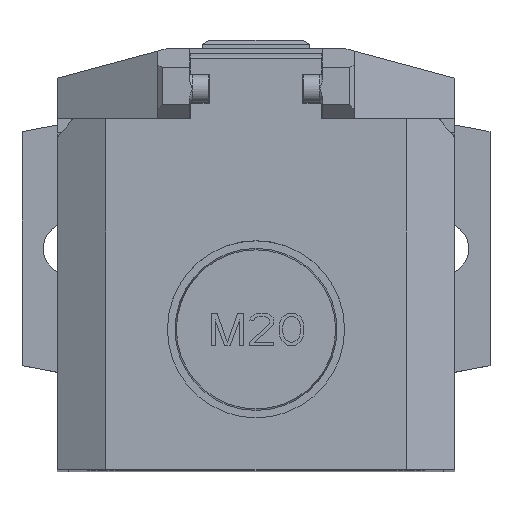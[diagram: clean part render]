
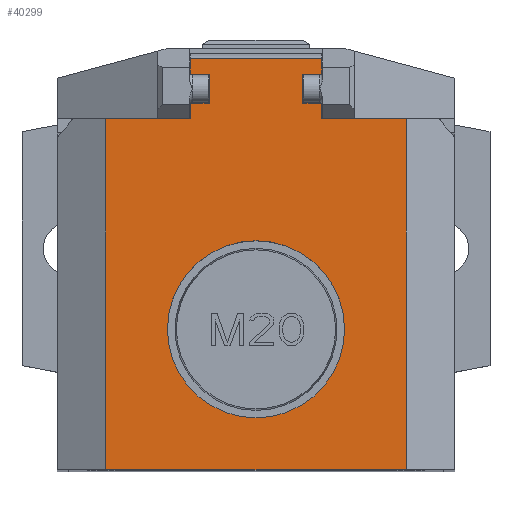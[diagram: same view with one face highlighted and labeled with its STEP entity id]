
A CAD part, top view. The second image highlights one B-rep face of the part: STEP entity #40299.
In plain terms, the highlighted planar face has unit normal (0, 0, 1) as drawn and (0, 0, -1) by its records, which use the part's own axes.
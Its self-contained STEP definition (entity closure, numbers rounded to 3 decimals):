
#1404=DIRECTION('',(-1.,0.,0.));
#1405=VECTOR('',#1404,9.054);
#1406=CARTESIAN_POINT('',(16.054,-16.5,-136.5));
#1407=LINE('',#1406,#1405);
#1425=DIRECTION('',(-1.,0.,0.));
#1426=VECTOR('',#1425,9.054);
#1427=CARTESIAN_POINT('',(-7.,-16.5,-136.5));
#1428=LINE('',#1427,#1426);
#1625=DIRECTION('',(0.,1.,0.));
#1626=VECTOR('',#1625,37.5);
#1627=CARTESIAN_POINT('',(-16.054,-16.5,-136.5));
#1628=LINE('',#1627,#1626);
#1639=DIRECTION('',(0.,-1.,0.));
#1640=VECTOR('',#1639,1.681);
#1641=CARTESIAN_POINT('',(-7.,-21.25,-136.5));
#1642=LINE('',#1641,#1640);
#1646=DIRECTION('',(-1.,0.,0.));
#1647=VECTOR('',#1646,2.);
#1648=CARTESIAN_POINT('',(7.,-21.25,-136.5));
#1649=LINE('',#1648,#1647);
#1653=DIRECTION('',(0.,1.,0.));
#1654=VECTOR('',#1653,3.1);
#1655=CARTESIAN_POINT('',(5.,-21.25,-136.5));
#1656=LINE('',#1655,#1654);
#1660=DIRECTION('',(0.,1.,0.));
#1661=VECTOR('',#1660,37.5);
#1662=CARTESIAN_POINT('',(16.054,-16.5,-136.5));
#1663=LINE('',#1662,#1661);
#1667=DIRECTION('',(-1.,0.,0.));
#1668=VECTOR('',#1667,32.108);
#1669=CARTESIAN_POINT('',(16.054,21.,-136.5));
#1670=LINE('',#1669,#1668);
#1674=DIRECTION('',(0.,-1.,0.));
#1675=VECTOR('',#1674,1.65);
#1676=CARTESIAN_POINT('',(-7.,-16.5,-136.5));
#1677=LINE('',#1676,#1675);
#1681=DIRECTION('',(1.,0.,0.));
#1682=VECTOR('',#1681,2.);
#1683=CARTESIAN_POINT('',(-7.,-18.15,-136.5));
#1684=LINE('',#1683,#1682);
#1688=CARTESIAN_POINT('',(0.,6.,-136.5));
#1689=DIRECTION('',(0.,0.,-1.));
#1690=DIRECTION('',(0.,-1.,0.));
#1691=AXIS2_PLACEMENT_3D('',#1688,#1689,#1690);
#1696=CARTESIAN_POINT('',(0.,6.,-136.5));
#1697=DIRECTION('',(0.,0.,-1.));
#1698=DIRECTION('',(0.,1.,0.));
#1699=AXIS2_PLACEMENT_3D('',#1696,#1697,#1698);
#1704=DIRECTION('',(0.,1.,0.));
#1705=VECTOR('',#1704,3.1);
#1706=CARTESIAN_POINT('',(-5.,-21.25,-136.5));
#1707=LINE('',#1706,#1705);
#1846=DIRECTION('',(0.,-1.,0.));
#1847=VECTOR('',#1846,1.681);
#1848=CARTESIAN_POINT('',(7.,-21.25,-136.5));
#1849=LINE('',#1848,#1847);
#1875=DIRECTION('',(0.,-1.,0.));
#1876=VECTOR('',#1875,1.65);
#1877=CARTESIAN_POINT('',(7.,-16.5,-136.5));
#1878=LINE('',#1877,#1876);
#1974=DIRECTION('',(-1.,0.,0.));
#1975=VECTOR('',#1974,2.);
#1976=CARTESIAN_POINT('',(7.,-18.15,-136.5));
#1977=LINE('',#1976,#1975);
#27296=DIRECTION('',(1.,0.,0.));
#27297=VECTOR('',#27296,2.);
#27298=CARTESIAN_POINT('',(-7.,-21.25,-136.5));
#27299=LINE('',#27298,#27297);
#27431=DIRECTION('',(-1.,0.,0.));
#27432=VECTOR('',#27431,14.);
#27433=CARTESIAN_POINT('',(7.,-22.931,-136.5));
#27434=LINE('',#27433,#27432);
#34132=CARTESIAN_POINT('',(16.054,21.,-136.5));
#34134=VERTEX_POINT('',#34132);
#34142=CARTESIAN_POINT('',(-16.054,21.,-136.5));
#34143=VERTEX_POINT('',#34142);
#34192=CARTESIAN_POINT('',(16.054,-16.5,-136.5));
#34193=VERTEX_POINT('',#34192);
#34212=CARTESIAN_POINT('',(7.,-16.5,-136.5));
#34213=VERTEX_POINT('',#34212);
#34218=CARTESIAN_POINT('',(-7.,-16.5,-136.5));
#34219=VERTEX_POINT('',#34218);
#34220=CARTESIAN_POINT('',(-16.054,-16.5,-136.5));
#34221=VERTEX_POINT('',#34220);
#35255=CARTESIAN_POINT('',(-5.,-21.25,-136.5));
#35256=CARTESIAN_POINT('',(-5.,-18.15,-136.5));
#35257=VERTEX_POINT('',#35255);
#35258=VERTEX_POINT('',#35256);
#35259=CARTESIAN_POINT('',(-7.,-21.25,-136.5));
#35260=VERTEX_POINT('',#35259);
#35261=CARTESIAN_POINT('',(-7.,-22.931,-136.5));
#35262=VERTEX_POINT('',#35261);
#35263=CARTESIAN_POINT('',(7.,-22.931,-136.5));
#35264=VERTEX_POINT('',#35263);
#35265=CARTESIAN_POINT('',(7.,-21.25,-136.5));
#35266=VERTEX_POINT('',#35265);
#35267=CARTESIAN_POINT('',(5.,-21.25,-136.5));
#35268=VERTEX_POINT('',#35267);
#35269=CARTESIAN_POINT('',(5.,-18.15,-136.5));
#35270=VERTEX_POINT('',#35269);
#35271=CARTESIAN_POINT('',(7.,-18.15,-136.5));
#35272=VERTEX_POINT('',#35271);
#35273=CARTESIAN_POINT('',(-7.,-18.15,-136.5));
#35274=VERTEX_POINT('',#35273);
#35275=CARTESIAN_POINT('',(0.,-3.46,-136.5));
#35276=CARTESIAN_POINT('',(0.,15.46,-136.5));
#35277=VERTEX_POINT('',#35275);
#35278=VERTEX_POINT('',#35276);
#40259=CARTESIAN_POINT('',(0.,0.,-136.5));
#40260=DIRECTION('',(0.,0.,-1.));
#40261=DIRECTION('',(1.,0.,0.));
#40262=AXIS2_PLACEMENT_3D('',#40259,#40260,#40261);
#40263=PLANE('',#40262);
#40265=ORIENTED_EDGE('',*,*,#40264,.F.);
#40267=ORIENTED_EDGE('',*,*,#40266,.F.);
#40269=ORIENTED_EDGE('',*,*,#40268,.T.);
#40271=ORIENTED_EDGE('',*,*,#40270,.F.);
#40273=ORIENTED_EDGE('',*,*,#40272,.F.);
#40275=ORIENTED_EDGE('',*,*,#40274,.T.);
#40277=ORIENTED_EDGE('',*,*,#40276,.T.);
#40279=ORIENTED_EDGE('',*,*,#40278,.F.);
#40281=ORIENTED_EDGE('',*,*,#40280,.F.);
#40282=ORIENTED_EDGE('',*,*,#40000,.F.);
#40283=ORIENTED_EDGE('',*,*,#39889,.T.);
#40284=ORIENTED_EDGE('',*,*,#39769,.T.);
#40285=ORIENTED_EDGE('',*,*,#40244,.F.);
#40286=ORIENTED_EDGE('',*,*,#40008,.F.);
#40288=ORIENTED_EDGE('',*,*,#40287,.T.);
#40290=ORIENTED_EDGE('',*,*,#40289,.T.);
#40291=EDGE_LOOP('',(#40265,#40267,#40269,#40271,#40273,#40275,#40277,#40279,
#40281,#40282,#40283,#40284,#40285,#40286,#40288,#40290));
#40292=FACE_OUTER_BOUND('',#40291,.F.);
#40294=ORIENTED_EDGE('',*,*,#40293,.T.);
#40296=ORIENTED_EDGE('',*,*,#40295,.T.);
#40297=EDGE_LOOP('',(#40294,#40296));
#40298=FACE_BOUND('',#40297,.F.);
#40299=ADVANCED_FACE('',(#40292,#40298),#40263,.T.);
#1692=CIRCLE('',#1691,9.46);
#1700=CIRCLE('',#1699,9.46);
#39769=EDGE_CURVE('',#34134,#34143,#1670,.T.);
#39889=EDGE_CURVE('',#34193,#34134,#1663,.T.);
#40000=EDGE_CURVE('',#34193,#34213,#1407,.T.);
#40008=EDGE_CURVE('',#34219,#34221,#1428,.T.);
#40244=EDGE_CURVE('',#34221,#34143,#1628,.T.);
#40264=EDGE_CURVE('',#35257,#35258,#1707,.T.);
#40266=EDGE_CURVE('',#35260,#35257,#27299,.T.);
#40268=EDGE_CURVE('',#35260,#35262,#1642,.T.);
#40270=EDGE_CURVE('',#35264,#35262,#27434,.T.);
#40272=EDGE_CURVE('',#35266,#35264,#1849,.T.);
#40274=EDGE_CURVE('',#35266,#35268,#1649,.T.);
#40276=EDGE_CURVE('',#35268,#35270,#1656,.T.);
#40278=EDGE_CURVE('',#35272,#35270,#1977,.T.);
#40280=EDGE_CURVE('',#34213,#35272,#1878,.T.);
#40287=EDGE_CURVE('',#34219,#35274,#1677,.T.);
#40289=EDGE_CURVE('',#35274,#35258,#1684,.T.);
#40293=EDGE_CURVE('',#35277,#35278,#1692,.T.);
#40295=EDGE_CURVE('',#35278,#35277,#1700,.T.);
